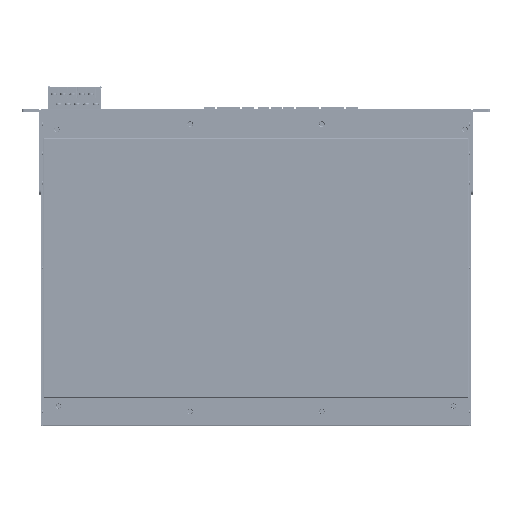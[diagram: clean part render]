
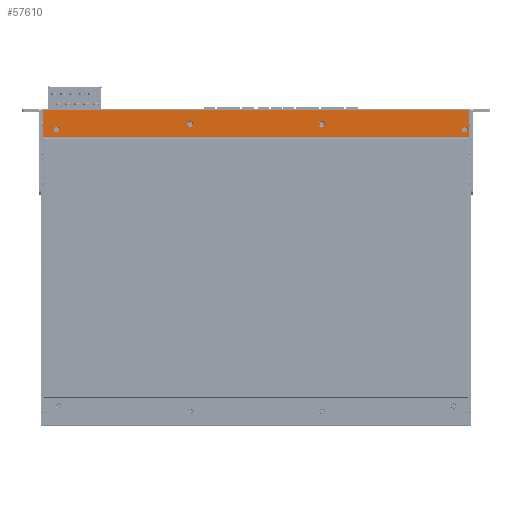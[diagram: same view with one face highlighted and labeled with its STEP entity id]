
A CAD part, front view. The second image highlights one B-rep face of the part: STEP entity #57610.
In plain terms, the highlighted planar face has unit normal (0, -1, 0).
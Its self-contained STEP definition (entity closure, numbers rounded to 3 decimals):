
#992 = CIRCLE ( 'NONE', #1126, 2.9 ) ;
#1063 = DIRECTION ( 'NONE',  ( 0., 0., 1. ) ) ;
#1064 = DIRECTION ( 'NONE',  ( 0., 1., 0. ) ) ;
#1126 = AXIS2_PLACEMENT_3D ( 'NONE', #1197, #1064, #1063 ) ;
#1197 = CARTESIAN_POINT ( 'NONE',  ( 67.5, -1., -15.001 ) ) ;
#4691 = CARTESIAN_POINT ( 'NONE',  ( 67.5, -1., -17.901 ) ) ;
#27927 = CARTESIAN_POINT ( 'NONE',  ( -67.5, -1., -12.101 ) ) ;
#27938 = CARTESIAN_POINT ( 'NONE',  ( -204.5, -1., -17.601 ) ) ;
#27958 = CARTESIAN_POINT ( 'NONE',  ( 67.5, -1., -12.101 ) ) ;
#28021 = DIRECTION ( 'NONE',  ( 0., 0., 1. ) ) ;
#28022 = DIRECTION ( 'NONE',  ( 0., 1., 0. ) ) ;
#28024 = CARTESIAN_POINT ( 'NONE',  ( -204.5, -1., -20.501 ) ) ;
#28106 = CARTESIAN_POINT ( 'NONE',  ( -204.5, -1., -23.401 ) ) ;
#28221 = AXIS2_PLACEMENT_3D ( 'NONE', #28024, #28022, #28021 ) ;
#28225 = CIRCLE ( 'NONE', #28221, 2.9 ) ;
#28263 = CARTESIAN_POINT ( 'NONE',  ( -67.5, -1., -17.901 ) ) ;
#46602 = DIRECTION ( 'NONE',  ( 0., 0., 1. ) ) ;
#47420 = DIRECTION ( 'NONE',  ( 0., 1., 0. ) ) ;
#47421 = CARTESIAN_POINT ( 'NONE',  ( 67.5, -1., -15.001 ) ) ;
#47422 = CIRCLE ( 'NONE', #47441, 2.9 ) ;
#47423 = DIRECTION ( 'NONE',  ( -1., 0., 0. ) ) ;
#47424 = VECTOR ( 'NONE', #47423, 1000. ) ;
#47425 = CARTESIAN_POINT ( 'NONE',  ( 219., -1., -28.5 ) ) ;
#47426 = LINE ( 'NONE', #47425, #47424 ) ;
#47441 = AXIS2_PLACEMENT_3D ( 'NONE', #47421, #47420, #46602 ) ;
#47480 = DIRECTION ( 'NONE',  ( 0., -1., 0. ) ) ;
#47481 = CARTESIAN_POINT ( 'NONE',  ( 218., -1., -27.5 ) ) ;
#47482 = CIRCLE ( 'NONE', #47501, 1. ) ;
#47501 = AXIS2_PLACEMENT_3D ( 'NONE', #47481, #47480, #47503 ) ;
#47503 = DIRECTION ( 'NONE',  ( 0., 0., 1. ) ) ;
#47553 = CIRCLE ( 'NONE', #47581, 2.9 ) ;
#47568 = DIRECTION ( 'NONE',  ( 0., 0., 1. ) ) ;
#47574 = DIRECTION ( 'NONE',  ( 0., 0., 1. ) ) ;
#47575 = DIRECTION ( 'NONE',  ( 0., 1., 0. ) ) ;
#47576 = CARTESIAN_POINT ( 'NONE',  ( -67.5, -1., -15.001 ) ) ;
#47581 = AXIS2_PLACEMENT_3D ( 'NONE', #47576, #47575, #47574 ) ;
#47582 = DIRECTION ( 'NONE',  ( 0., 1., 0. ) ) ;
#47583 = CARTESIAN_POINT ( 'NONE',  ( -204.5, -1., -20.501 ) ) ;
#47584 = AXIS2_PLACEMENT_3D ( 'NONE', #47583, #47582, #47568 ) ;
#47585 = CIRCLE ( 'NONE', #47584, 2.9 ) ;
#47645 = DIRECTION ( 'NONE',  ( 0., 0., 1. ) ) ;
#47646 = DIRECTION ( 'NONE',  ( 0., 1., 0. ) ) ;
#47647 = CARTESIAN_POINT ( 'NONE',  ( 214.3, -1., -20.501 ) ) ;
#47648 = CIRCLE ( 'NONE', #47714, 2.9 ) ;
#47710 = DIRECTION ( 'NONE',  ( 0., 0., 1. ) ) ;
#47711 = DIRECTION ( 'NONE',  ( 0., 1., 0. ) ) ;
#47712 = CARTESIAN_POINT ( 'NONE',  ( 219., -1., 0. ) ) ;
#47714 = AXIS2_PLACEMENT_3D ( 'NONE', #47647, #47646, #47645 ) ;
#47716 = FACE_BOUND ( 'NONE', #57615, .T. ) ;
#47717 = AXIS2_PLACEMENT_3D ( 'NONE', #47712, #47711, #47710 ) ;
#47720 = FACE_BOUND ( 'NONE', #57588, .T. ) ;
#47723 = FACE_OUTER_BOUND ( 'NONE', #57892, .T. ) ;
#47724 = FACE_BOUND ( 'NONE', #57606, .T. ) ;
#47730 = PLANE ( 'NONE',  #47717 ) ;
#47733 = FACE_BOUND ( 'NONE', #57577, .T. ) ;
#48665 = DIRECTION ( 'NONE',  ( 0., 0., 1. ) ) ;
#48666 = DIRECTION ( 'NONE',  ( 0., -1., 0. ) ) ;
#48677 = CIRCLE ( 'NONE', #48849, 1. ) ;
#48721 = DIRECTION ( 'NONE',  ( 0., 0., -1. ) ) ;
#48722 = VECTOR ( 'NONE', #48721, 1000. ) ;
#48724 = CARTESIAN_POINT ( 'NONE',  ( 219., -1., 0. ) ) ;
#48726 = LINE ( 'NONE', #48724, #48722 ) ;
#48752 = CARTESIAN_POINT ( 'NONE',  ( -218., -1., -27.5 ) ) ;
#48826 = CARTESIAN_POINT ( 'NONE',  ( 219., -1., -1.005 ) ) ;
#48849 = AXIS2_PLACEMENT_3D ( 'NONE', #48752, #48666, #48665 ) ;
#48954 = CARTESIAN_POINT ( 'NONE',  ( -219., -1., -1.005 ) ) ;
#49893 = CARTESIAN_POINT ( 'NONE',  ( 218., -1., -28.5 ) ) ;
#49906 = CARTESIAN_POINT ( 'NONE',  ( -218., -1., -28.5 ) ) ;
#50014 = DIRECTION ( 'NONE',  ( -1., 0., 0. ) ) ;
#50015 = VECTOR ( 'NONE', #50014, 1000. ) ;
#50017 = CARTESIAN_POINT ( 'NONE',  ( 219., -1., -1.005 ) ) ;
#50019 = LINE ( 'NONE', #50017, #50015 ) ;
#50104 = CARTESIAN_POINT ( 'NONE',  ( -219., -1., -27.5 ) ) ;
#50435 = VECTOR ( 'NONE', #50547, 1000. ) ;
#50468 = LINE ( 'NONE', #50619, #50435 ) ;
#50547 = DIRECTION ( 'NONE',  ( 0., 0., -1. ) ) ;
#50619 = CARTESIAN_POINT ( 'NONE',  ( -219., -1., 0. ) ) ;
#53551 = CARTESIAN_POINT ( 'NONE',  ( 219., -1., -27.5 ) ) ;
#53856 = VERTEX_POINT ( 'NONE', #27958 ) ;
#53863 = VERTEX_POINT ( 'NONE', #27938 ) ;
#53885 = VERTEX_POINT ( 'NONE', #28106 ) ;
#53896 = VERTEX_POINT ( 'NONE', #27927 ) ;
#53904 = EDGE_CURVE ( 'NONE', #53885, #53863, #28225, .T. ) ;
#53917 = VERTEX_POINT ( 'NONE', #28263 ) ;
#53954 = EDGE_CURVE ( 'NONE', #53917, #53896, #79702, .T. ) ;
#54691 = VERTEX_POINT ( 'NONE', #74005 ) ;
#54762 = EDGE_CURVE ( 'NONE', #54691, #54763, #74261, .T. ) ;
#54763 = VERTEX_POINT ( 'NONE', #74234 ) ;
#57272 = VERTEX_POINT ( 'NONE', #53551 ) ;
#57541 = EDGE_CURVE ( 'NONE', #57888, #57272, #47482, .T. ) ;
#57569 = EDGE_CURVE ( 'NONE', #53856, #68724, #47422, .T. ) ;
#57570 = EDGE_CURVE ( 'NONE', #57888, #57889, #47426, .T. ) ;
#57572 = EDGE_CURVE ( 'NONE', #53863, #53885, #47585, .T. ) ;
#57573 = EDGE_CURVE ( 'NONE', #53896, #53917, #47553, .T. ) ;
#57574 = ORIENTED_EDGE ( 'NONE', *, *, #67855, .T. ) ;
#57577 = EDGE_LOOP ( 'NONE', ( #57584, #57587 ) ) ;
#57580 = ORIENTED_EDGE ( 'NONE', *, *, #57572, .T. ) ;
#57584 = ORIENTED_EDGE ( 'NONE', *, *, #53954, .T. ) ;
#57587 = ORIENTED_EDGE ( 'NONE', *, *, #57573, .T. ) ;
#57588 = EDGE_LOOP ( 'NONE', ( #57807, #57580 ) ) ;
#57606 = EDGE_LOOP ( 'NONE', ( #57902, #57608 ) ) ;
#57608 = ORIENTED_EDGE ( 'NONE', *, *, #57611, .T. ) ;
#57610 = ADVANCED_FACE ( 'NONE', ( #47724, #47716, #47733, #47720, #47723 ), #47730, .F. ) ;
#57611 = EDGE_CURVE ( 'NONE', #54763, #54691, #47648, .T. ) ;
#57615 = EDGE_LOOP ( 'NONE', ( #57574, #57950 ) ) ;
#57635 = ORIENTED_EDGE ( 'NONE', *, *, #57541, .T. ) ;
#57781 = ORIENTED_EDGE ( 'NONE', *, *, #57944, .T. ) ;
#57782 = EDGE_CURVE ( 'NONE', #57868, #57889, #48677, .T. ) ;
#57787 = EDGE_CURVE ( 'NONE', #57803, #57272, #48726, .T. ) ;
#57793 = VERTEX_POINT ( 'NONE', #48954 ) ;
#57803 = VERTEX_POINT ( 'NONE', #48826 ) ;
#57807 = ORIENTED_EDGE ( 'NONE', *, *, #53904, .T. ) ;
#57867 = EDGE_CURVE ( 'NONE', #57803, #57793, #50019, .T. ) ;
#57868 = VERTEX_POINT ( 'NONE', #50104 ) ;
#57888 = VERTEX_POINT ( 'NONE', #49893 ) ;
#57889 = VERTEX_POINT ( 'NONE', #49906 ) ;
#57891 = ORIENTED_EDGE ( 'NONE', *, *, #57570, .F. ) ;
#57892 = EDGE_LOOP ( 'NONE', ( #57891, #57635, #57917, #57943, #57781, #57934 ) ) ;
#57902 = ORIENTED_EDGE ( 'NONE', *, *, #54762, .T. ) ;
#57917 = ORIENTED_EDGE ( 'NONE', *, *, #57787, .F. ) ;
#57934 = ORIENTED_EDGE ( 'NONE', *, *, #57782, .T. ) ;
#57943 = ORIENTED_EDGE ( 'NONE', *, *, #57867, .T. ) ;
#57944 = EDGE_CURVE ( 'NONE', #57793, #57868, #50468, .T. ) ;
#57950 = ORIENTED_EDGE ( 'NONE', *, *, #57569, .T. ) ;
#67855 = EDGE_CURVE ( 'NONE', #68724, #53856, #992, .T. ) ;
#68724 = VERTEX_POINT ( 'NONE', #4691 ) ;
#74005 = CARTESIAN_POINT ( 'NONE',  ( 214.3, -1., -23.401 ) ) ;
#74233 = AXIS2_PLACEMENT_3D ( 'NONE', #74244, #74243, #74242 ) ;
#74234 = CARTESIAN_POINT ( 'NONE',  ( 214.3, -1., -17.601 ) ) ;
#74242 = DIRECTION ( 'NONE',  ( 0., 0., 1. ) ) ;
#74243 = DIRECTION ( 'NONE',  ( 0., 1., 0. ) ) ;
#74244 = CARTESIAN_POINT ( 'NONE',  ( 214.3, -1., -20.501 ) ) ;
#74261 = CIRCLE ( 'NONE', #74233, 2.9 ) ;
#79643 = AXIS2_PLACEMENT_3D ( 'NONE', #79754, #79753, #79752 ) ;
#79702 = CIRCLE ( 'NONE', #79643, 2.9 ) ;
#79752 = DIRECTION ( 'NONE',  ( 0., 0., 1. ) ) ;
#79753 = DIRECTION ( 'NONE',  ( 0., 1., 0. ) ) ;
#79754 = CARTESIAN_POINT ( 'NONE',  ( -67.5, -1., -15.001 ) ) ;
